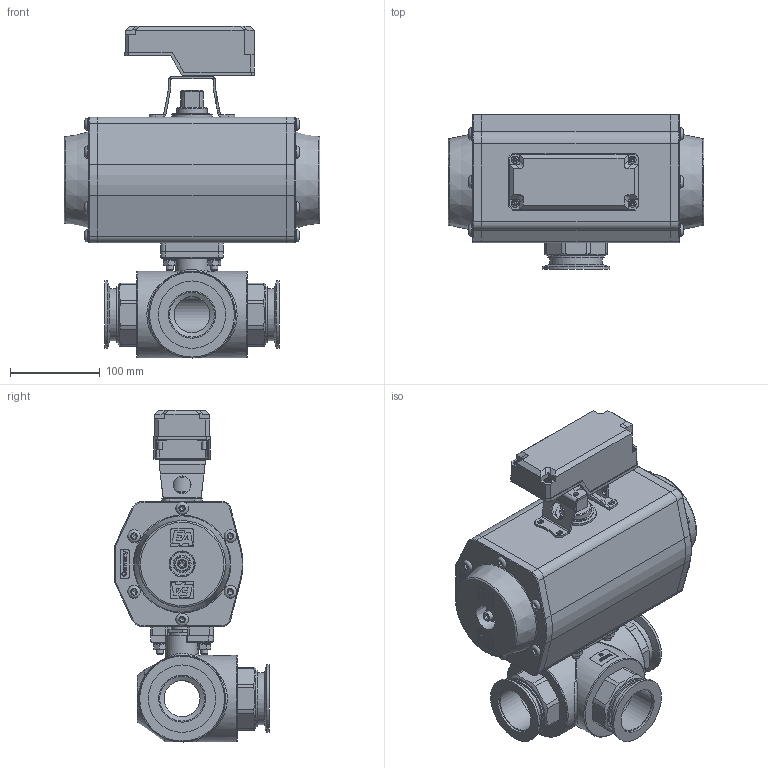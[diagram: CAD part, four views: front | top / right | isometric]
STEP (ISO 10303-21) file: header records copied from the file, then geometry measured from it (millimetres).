
FILE_DESCRIPTION( ( 'Unknown' ), '1' );
FILE_NAME( 'X:/Daten ( aktueller Bestand )/Projekte und Zeichnungen/Solid Edge/STP-Dateien/Kugelhahn, handbetätigt, pneu/416722.stp', 'Unknown', ( 'Unknown' ), ( 'Unknown' ), 'PSStep 14.0', 'Unknown', ' ' );
FILE_SCHEMA( ( 'AUTOMOTIVE_DESIGN { 1 0 10303 214 1 1 1 1 }' ) );
Length unit declared in the file: millimetre
Products named in the file (22): ED621002-KUNDEN_0; EDG_000_100_013_0; DEQ1400_10_0099_0; EDR100-OBERTEIL_0; EDS0450_01_0099_0; ISO 7380  (Regelgewinde) M8 x 25_2; DIN 125-1  A A 10,5_0; DIN 913 M10 x 40_0; DIN 934  - ersetzt durch DIN EN 24 032_28 673_28 674 M10_0; DIN 471 34x1,5_0; Endlagenschalter; DECKEL-RE080303; KONSOL-RE080303; ISO 7380  (Regelgewinde) M5 x 10; Assem1; PD311X28_0; DIN 916  (Regelgewinde) M8  x  40_0; DIN 127 - zur_ckgezogen A 8_2; DIN EN 24 032  (Regelgewinde) M8_4; RED17-14_8-4-3D_0; PDF0700_03_0014_0; 1597
Assembly tree (47 placements, depth 3):
  Assem1
    PD311X28_0
    DIN 916  (Regelgewinde) M8  x  40_0  x3
    DIN 127 - zur_ckgezogen A 8_2  x3
    DIN EN 24 032  (Regelgewinde) M8_4  x3
    RED17-14_8-4-3D_0
    PDF0700_03_0014_0
    1597  x3
    ED621002-KUNDEN_0
      EDG_000_100_013_0
      DEQ1400_10_0099_0  x2
      EDR100-OBERTEIL_0
      EDS0450_01_0099_0
      ISO 7380  (Regelgewinde) M8 x 25_2  x12
      DIN 125-1  A A 10,5_0  x2
      DIN 913 M10 x 40_0  x2
      DIN 934  - ersetzt durch DIN EN 24 032_28 673_28 674 M10_0  x2
      DIN 471 34x1,5_0
    Endlagenschalter
      DECKEL-RE080303
      KONSOL-RE080303
      ISO 7380  (Regelgewinde) M5 x 10  x4
Bounding box: 285 x 172 x 369.77 mm (x, y, z)
Volume: 4206459.7 mm3; surface area: 606645.2 mm2
Topology: 45 solids, 45 shells, 1799 faces, 4617 edges, 3004 vertices
Faces by surface type: plane 972, cylinder 360, extrusion 260, cone 133, torus 42, bspline 28, sphere 4
Full cylindrical faces by diameter (mm): 2.5 x2, 4 x2, 4.134 x8, 4.917 x1, 5 x4, 5.5 x1, 6 x4, 6.647 x32, 8 x20, 8.376 x8, 9.5 x4, 10 x2, 10.5 x2, 11.445 x2, 14 x12, 20 x3, 23 x1, 24 x1, 28 x1, 32.3 x1, 33 x1, 34.1 x2, 34.5 x2, 35 x1, 40 x2, 45 x1, 49.5 x1, 50 x4, 52.2 x3, 56.656 x3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
Entity records: 52790 total; most frequent: CARTESIAN_POINT 13445, ORIENTED_EDGE 6028, DIRECTION 5426, EDGE_CURVE 3014, VERTEX_POINT 2083, VECTOR 1950, LINE 1751, AXIS2_PLACEMENT_3D 1738
